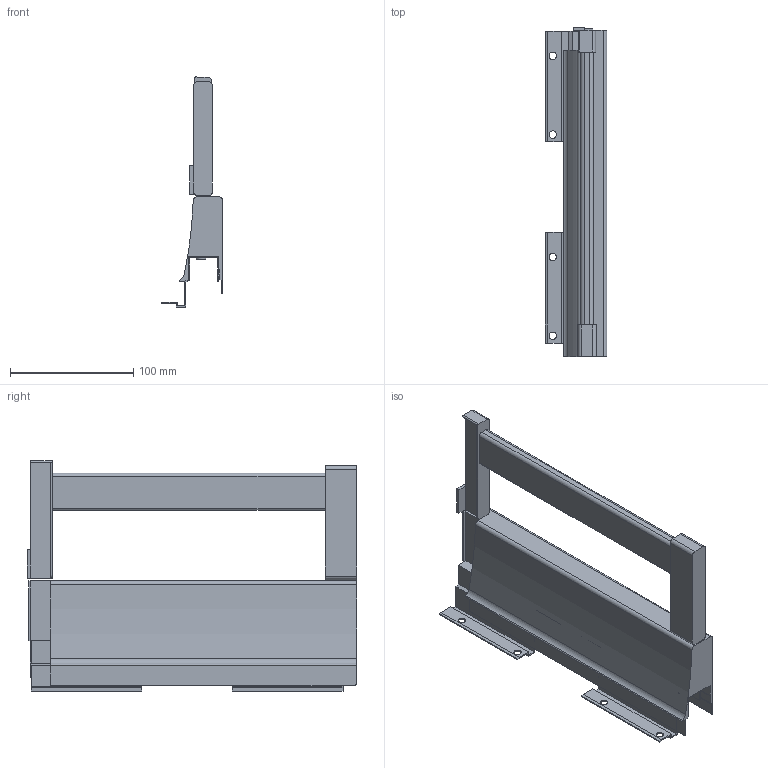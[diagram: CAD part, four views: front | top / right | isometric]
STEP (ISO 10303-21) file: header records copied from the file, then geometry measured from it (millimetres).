
FILE_DESCRIPTION (( 'STEP AP214' ), '1' );
FILE_NAME ('_XP Agantis Dekorseite H95 NL275 RE Rechteckreling.step', '2010-07-08T06:08:06', ( 'grass' ), ( '' ), 'SwSTEP 2.0', 'SolidWorks 2010', '' );
FILE_SCHEMA (( 'AUTOMOTIVE_DESIGN' ));
Length unit declared in the file: millimetre
Products named in the file (1): _XP Agantis Dekorseite H95 NL275 RE Rechteckreling
Bounding box: 50.01 x 267.45 x 187 mm (x, y, z)
Volume: 500478.9 mm3; surface area: 124716 mm2
Topology: 2 solids, 2 shells, 138 faces, 393 edges, 258 vertices
Faces by surface type: plane 103, cylinder 35
Entity records: 4519 total; most frequent: CARTESIAN_POINT 790, ORIENTED_EDGE 786, DIRECTION 742, EDGE_CURVE 393, VECTOR 322, LINE 322, VERTEX_POINT 258, AXIS2_PLACEMENT_3D 210
